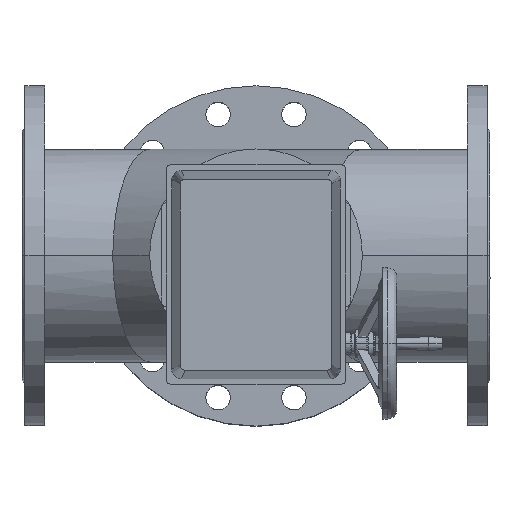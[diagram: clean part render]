
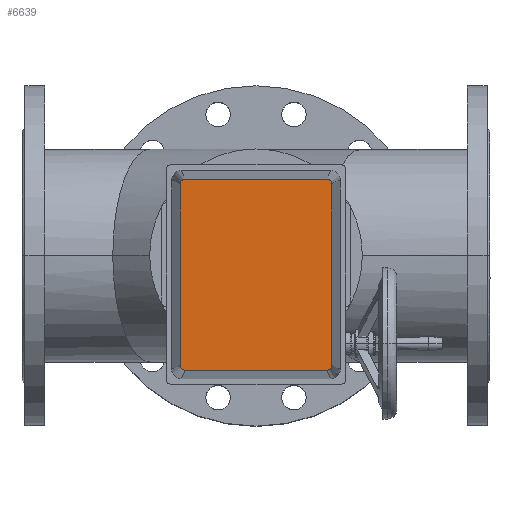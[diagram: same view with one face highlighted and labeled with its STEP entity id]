
A CAD part, top view. The second image highlights one B-rep face of the part: STEP entity #6639.
In plain terms, the highlighted planar face has unit normal (0, 0, 1).
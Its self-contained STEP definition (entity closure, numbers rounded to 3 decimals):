
#431=LINE('',#11543,#791);
#432=LINE('',#11547,#792);
#433=LINE('',#11551,#793);
#434=LINE('',#11555,#794);
#791=VECTOR('',#8985,304.8);
#792=VECTOR('',#8988,304.8);
#793=VECTOR('',#8991,304.8);
#794=VECTOR('',#8994,304.8);
#1523=FACE_OUTER_BOUND('',#2012,.T.);
#2012=EDGE_LOOP('',(#5265,#5266,#5267,#5268,#5269,#5270,#5271,#5272));
#2521=CIRCLE('',#7374,5.);
#2522=CIRCLE('',#7375,5.);
#2523=CIRCLE('',#7376,5.);
#2524=CIRCLE('',#7377,5.);
#3050=VERTEX_POINT('',#11541);
#3051=VERTEX_POINT('',#11542);
#3052=VERTEX_POINT('',#11544);
#3053=VERTEX_POINT('',#11546);
#3054=VERTEX_POINT('',#11548);
#3055=VERTEX_POINT('',#11550);
#3056=VERTEX_POINT('',#11552);
#3057=VERTEX_POINT('',#11554);
#3816=EDGE_CURVE('',#3050,#3051,#431,.T.);
#3817=EDGE_CURVE('',#3051,#3052,#2521,.T.);
#3818=EDGE_CURVE('',#3052,#3053,#432,.T.);
#3819=EDGE_CURVE('',#3053,#3054,#2522,.T.);
#3820=EDGE_CURVE('',#3054,#3055,#433,.T.);
#3821=EDGE_CURVE('',#3055,#3056,#2523,.T.);
#3822=EDGE_CURVE('',#3056,#3057,#434,.T.);
#3823=EDGE_CURVE('',#3057,#3050,#2524,.T.);
#5265=ORIENTED_EDGE('',*,*,#3816,.T.);
#5266=ORIENTED_EDGE('',*,*,#3817,.T.);
#5267=ORIENTED_EDGE('',*,*,#3818,.T.);
#5268=ORIENTED_EDGE('',*,*,#3819,.T.);
#5269=ORIENTED_EDGE('',*,*,#3820,.T.);
#5270=ORIENTED_EDGE('',*,*,#3821,.T.);
#5271=ORIENTED_EDGE('',*,*,#3822,.T.);
#5272=ORIENTED_EDGE('',*,*,#3823,.T.);
#5969=PLANE('',#7373);
#6639=ADVANCED_FACE('',(#1523),#5969,.T.);
#7373=AXIS2_PLACEMENT_3D('',#11540,#8983,#8984);
#7374=AXIS2_PLACEMENT_3D('',#11545,#8986,#8987);
#7375=AXIS2_PLACEMENT_3D('',#11549,#8989,#8990);
#7376=AXIS2_PLACEMENT_3D('',#11553,#8992,#8993);
#7377=AXIS2_PLACEMENT_3D('',#11556,#8995,#8996);
#8983=DIRECTION('center_axis',(0.,0.,1.));
#8984=DIRECTION('ref_axis',(0.,-1.,0.));
#8985=DIRECTION('',(0.,-1.,0.));
#8986=DIRECTION('center_axis',(0.,0.,1.));
#8987=DIRECTION('ref_axis',(1.,0.,0.));
#8988=DIRECTION('',(1.,0.,0.));
#8989=DIRECTION('center_axis',(0.,0.,1.));
#8990=DIRECTION('ref_axis',(1.,0.,0.));
#8991=DIRECTION('',(0.,1.,0.));
#8992=DIRECTION('center_axis',(0.,0.,1.));
#8993=DIRECTION('ref_axis',(1.,0.,0.));
#8994=DIRECTION('',(-1.,0.,0.));
#8995=DIRECTION('center_axis',(0.,0.,1.));
#8996=DIRECTION('ref_axis',(1.,0.,0.));
#11540=CARTESIAN_POINT('Origin',(-21.551,0.,
592.));
#11541=CARTESIAN_POINT('',(-122.531,75.,592.));
#11542=CARTESIAN_POINT('',(-122.531,-75.,592.));
#11543=CARTESIAN_POINT('',(-122.531,-75.,592.));
#11544=CARTESIAN_POINT('',(-117.531,-80.,592.));
#11545=CARTESIAN_POINT('Origin',(-117.531,-75.,592.));
#11546=CARTESIAN_POINT('',(74.43,-80.,592.));
#11547=CARTESIAN_POINT('',(74.43,-80.,592.));
#11548=CARTESIAN_POINT('',(79.43,-75.,592.));
#11549=CARTESIAN_POINT('Origin',(74.43,-75.,592.));
#11550=CARTESIAN_POINT('',(79.43,75.,592.));
#11551=CARTESIAN_POINT('',(79.43,75.,592.));
#11552=CARTESIAN_POINT('',(74.43,80.,592.));
#11553=CARTESIAN_POINT('Origin',(74.43,75.,592.));
#11554=CARTESIAN_POINT('',(-117.531,80.,592.));
#11555=CARTESIAN_POINT('',(-117.531,80.,592.));
#11556=CARTESIAN_POINT('Origin',(-117.531,75.,592.));
